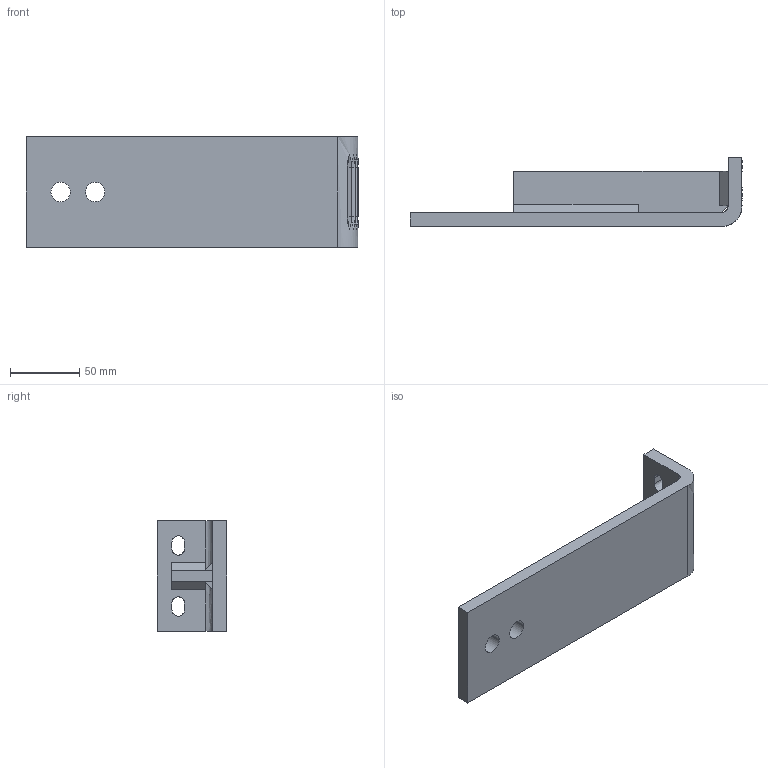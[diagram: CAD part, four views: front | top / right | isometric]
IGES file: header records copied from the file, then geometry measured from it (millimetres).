
Start section: 3D InterOp IGES (v. 2019 1.0.2), Spatial Corp. Copyright (c) 1999-2017.
Global section: file name: PARA2405010R.igs; native system: Spatial Corp.; preprocessor: 3D InterOp GENERIC/IGES 3.0; author: Noname; organization: Noname; date: 20210211.095454; units: millimetre
Bounding box: 240 x 50 x 80 mm (x, y, z)
Surface area: 61467.2 mm2 (no closed solid volume)
Topology: 0 solids, 0 shells, 112 faces, 568 edges, 568 vertices
Faces by surface type: extrusion 58, revolution 54
